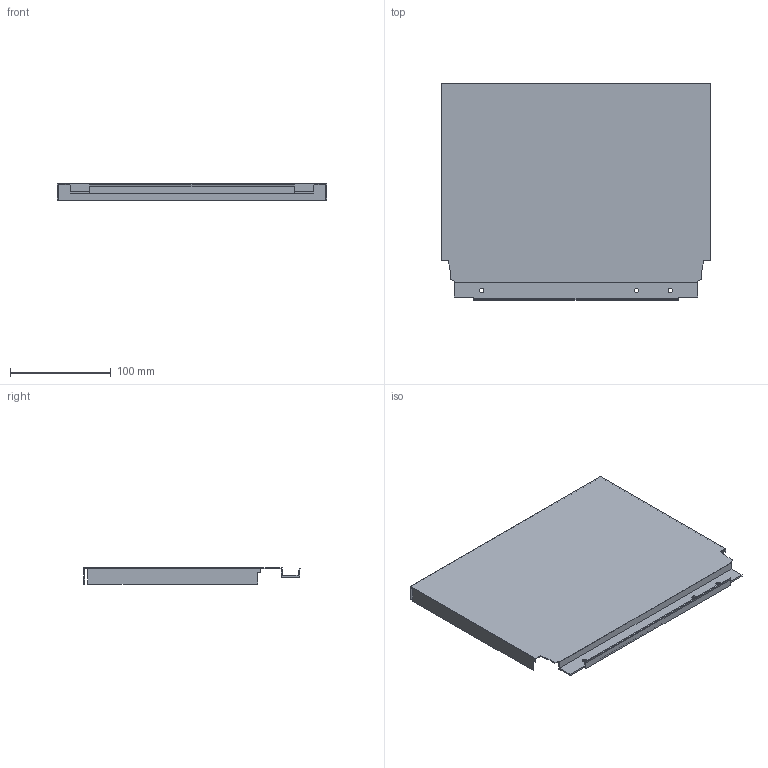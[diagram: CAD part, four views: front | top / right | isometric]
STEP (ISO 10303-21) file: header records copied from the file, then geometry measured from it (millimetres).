
FILE_DESCRIPTION (( 'STEP AP214' ), '1' );
FILE_NAME ('_DWD_XP Stahlrückwand_H214_KAB350_S16.step', '2010-07-08T13:02:46', ( 'grass' ), ( '' ), 'SwSTEP 2.0', 'SolidWorks 2010', '' );
FILE_SCHEMA (( 'AUTOMOTIVE_DESIGN' ));
Length unit declared in the file: millimetre
Products named in the file (1): _DWD_XP Stahlrückwand_H214_KAB350_S16
Bounding box: 267 x 214.58 x 16 mm (x, y, z)
Volume: 65140.5 mm3; surface area: 138619.3 mm2
Topology: 1 solids, 1 shells, 46 faces, 132 edges, 88 vertices
Faces by surface type: plane 40, cylinder 6
Entity records: 1534 total; most frequent: CARTESIAN_POINT 267, ORIENTED_EDGE 264, DIRECTION 238, EDGE_CURVE 132, LINE 120, VECTOR 120, VERTEX_POINT 88, AXIS2_PLACEMENT_3D 59
